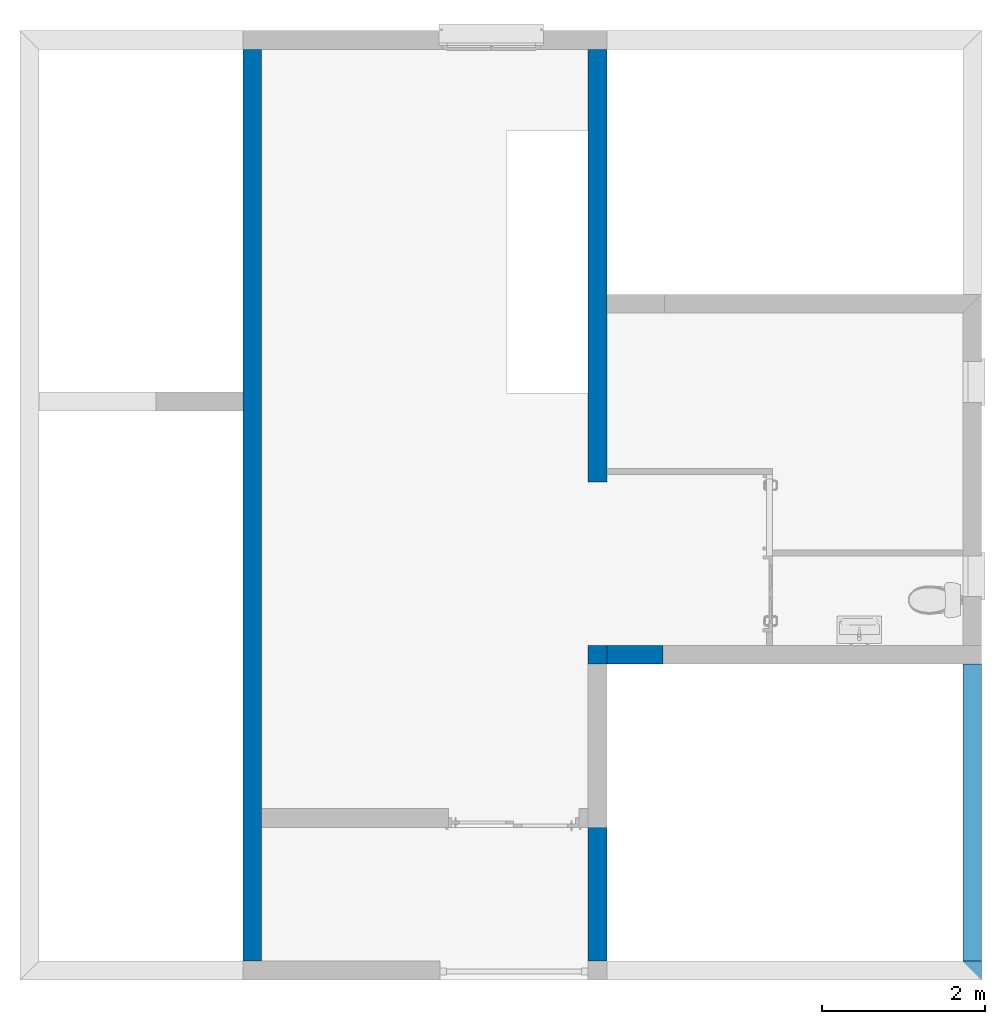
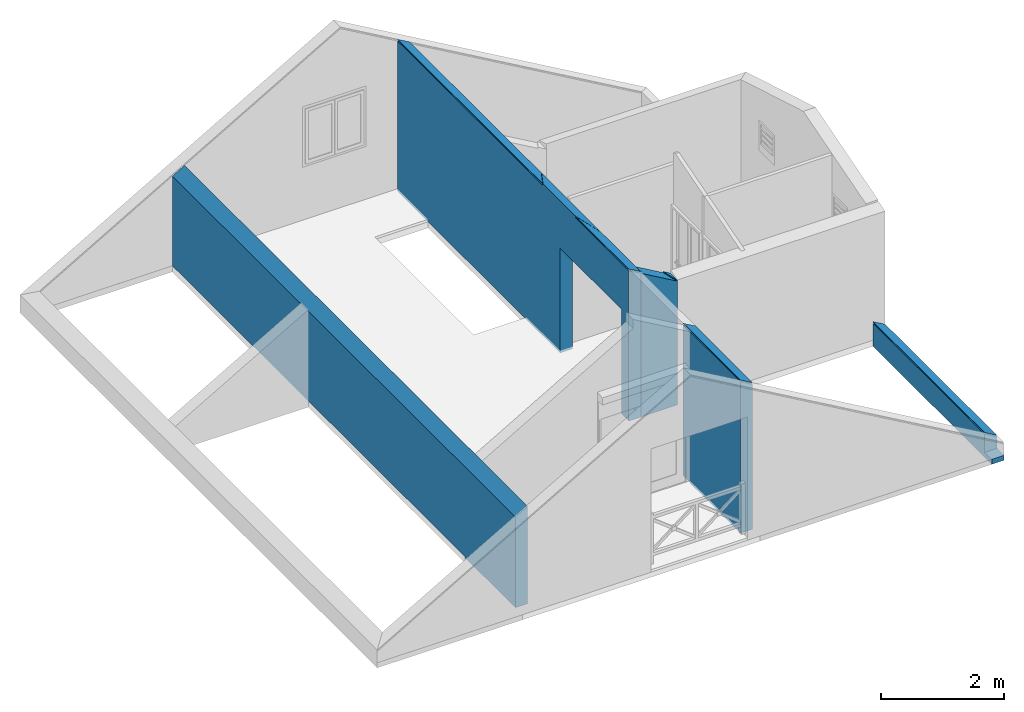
# One storey, part 5 of 8: 5 walls, 1 opening.
"""IFC2X3 building model written with IfcOpenShell, lengths in metres."""

from ifc_helpers import new_model, entity, si_unit, converted_unit, derived_unit, money_unit, direction, frame, origin_with_axes, origin_2d_with_axis, place, context, subcontext, project, spatial, polyline, rectangle, outline, extrude, boolean, clip, halfspace, bounded_halfspace, faceted_brep, material, type_object, element, save


model = new_model("IFC2X3")

# Units and contexts
model_context = context("Model", 3, precision=1e-05, world=origin_with_axes(), true_north=direction((0.0, 1.0)))
body_context = subcontext(model_context, "Body", "Model", "MODEL_VIEW")
ifc_project = project(units=[si_unit("LENGTHUNIT", "METRE"), si_unit("AREAUNIT", "SQUARE_METRE"), si_unit("VOLUMEUNIT", "CUBIC_METRE"), converted_unit("PLANEANGLEUNIT", "DEGREE", entity("IfcPlaneAngleMeasure", 0.0174532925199), si_unit("PLANEANGLEUNIT", "RADIAN"), dimensions=[0, 0, 0, 0, 0, 0, 0]), si_unit("SOLIDANGLEUNIT", "STERADIAN"), money_unit("CHF"), converted_unit("TIMEUNIT", "Year", entity("IfcTimeMeasure", 31556926.0), si_unit("TIMEUNIT", "SECOND"), dimensions=[0, 0, 1, 0, 0, 0, 0]), si_unit("MASSUNIT", "GRAM", prefix="KILO"), si_unit("THERMODYNAMICTEMPERATUREUNIT", "DEGREE_CELSIUS"), si_unit("LUMINOUSINTENSITYUNIT", "LUMEN"), si_unit("ENERGYUNIT", "JOULE", prefix="MEGA"), derived_unit("THERMALCONDUCTANCEUNIT", [(si_unit("POWERUNIT", "WATT"), 1), (si_unit("LENGTHUNIT", "METRE"), -1), (si_unit("THERMODYNAMICTEMPERATUREUNIT", "KELVIN"), -1)]), derived_unit("SPECIFICHEATCAPACITYUNIT", [(si_unit("ENERGYUNIT", "JOULE"), 1), (si_unit("MASSUNIT", "GRAM", prefix="KILO"), -1), (si_unit("THERMODYNAMICTEMPERATUREUNIT", "KELVIN"), -1)]), derived_unit("MASSDENSITYUNIT", [(si_unit("MASSUNIT", "GRAM", prefix="KILO"), 1), (si_unit("VOLUMEUNIT", "CUBIC_METRE"), -1)])], contexts=[model_context])

# Site, building, storey
site_placement = place(None, origin_with_axes())
site = spatial("IfcSite", under=ifc_project, at=site_placement, Name="Site", CompositionType="ELEMENT")
building_placement = place(site_placement, origin_with_axes())
building = spatial("IfcBuilding", under=site, at=building_placement, Name="Bâtiment", CompositionType="ELEMENT")
storey_placement = place(building_placement, frame((0.0, 0.0, 6.0), z_axis=(0.0, 0.0, 1.0), x_axis=(1.0, 0.0, 0.0)))
storey = spatial("IfcBuildingStorey", under=building, at=storey_placement, Name="COMBLES", CompositionType="ELEMENT", Elevation=6.0)

# Walls
ifc_material = material(Name="Hachure solide 2628782308")
wall_type = type_object("IfcWallType", Name="Hachure solide 2628782308 230", PredefinedType="NOTDEFINED")
wall_1_placement = place(storey_placement, frame((92.659162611, 11.2803410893, -3.37), z_axis=(0.0, 0.0, 1.0), x_axis=(-1.0, 0.0, 0.0)))
element("IfcWall", 1, at=wall_1_placement, inside=storey, type_object=wall_type, material=ifc_material, Name="MurExt-017", context=body_context, shape_type="CSG", body=[
    boolean("DIFFERENCE", clip(clip(clip(clip(clip(extrude(outline(polyline([(0.0, 0.0), (0.915643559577, 0.0), (0.915643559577, 0.23), (0.0, 0.23), (0.0, 0.0)])), origin_with_axes(), (0.0, 0.0, 1.0), 3.0), bounded_halfspace(frame((0.0, 0.7006026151, 2.3651947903), z_axis=(0.0, -0.284015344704, -0.958819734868), x_axis=(0.0, 0.958819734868, -0.284015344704)), True, origin_with_axes(), polyline([(-4.30426656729, 0.23), (-4.1792090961, -0.01), (0.140471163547, -0.01), (0.0102029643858, 0.24), (-4.30426656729, 0.24), (-4.30426656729, 0.23)]))), bounded_halfspace(frame((0.0, 0.7006026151, 2.3651947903), z_axis=(0.0, -0.284015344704, -0.958819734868), x_axis=(0.0, 0.958819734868, -0.284015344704)), True, origin_with_axes(), polyline([(-4.30426656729, 0.23), (-4.1792090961, -0.01), (0.140471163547, -0.01), (0.0102029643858, 0.24), (-4.30426656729, 0.24), (-4.30426656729, 0.23)]))), bounded_halfspace(frame((0.0, 0.7006026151, 2.3651947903), z_axis=(0.0, -0.284015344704, -0.958819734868), x_axis=(0.0, 0.958819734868, -0.284015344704)), True, origin_with_axes(), polyline([(-4.30426656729, 0.23), (-4.1792090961, -0.01), (0.140471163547, -0.01), (0.0102029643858, 0.24), (-4.30426656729, 0.24), (-4.30426656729, 0.23)]))), bounded_halfspace(frame((-1.07516058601, 0.0, 1.86223276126), z_axis=(0.5, 0.0, -0.866025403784), x_axis=(0.0, 1.0, 0.0)), True, origin_with_axes(), polyline([(-4.18431570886, 0.23), (-4.05925824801, -0.01), (2.10555367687, -0.01), (2.10555367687, 0.0), (1.98049621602, 0.24), (-4.18431570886, 0.24), (-4.18431570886, 0.23)]))), bounded_halfspace(frame((-1.07949071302, 0.0, 1.86973276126), z_axis=(0.5, 0.0, -0.866025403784), x_axis=(0.0, 1.0, 0.0)), True, origin_with_axes(), polyline([(-4.18431570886, 0.23), (-4.05925823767, -0.01), (2.10555368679, -0.01), (2.10555368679, 0.0), (1.9804962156, 0.24), (-4.18431570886, 0.24), (-4.18431570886, 0.23)]))), faceted_brep([(0.135260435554, 0.0, 2.58261666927), (0.135260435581, 0.0, 2.59358171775), (0.0, 0.0, 2.59358171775), (0.0, 0.0, 2.57272273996), (0.13526043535, 0.0, 2.57272273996), (0.135260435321, 0.0, 2.57106966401), (0.685643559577, 0.0, 2.88883350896), (0.685643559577, 0.0, 2.87944464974), (0.135260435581, 0.0, 2.56168080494), (0.135260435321, 0.0, 2.53858679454), (0.685643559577, 0.0, 2.85635063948), (0.685643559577, 0.0, 0.0), (0.915643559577, 0.0, 0.0), (0.915643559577, 0.0, 3.0), (0.685643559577, 0.0, 3.0), (0.685643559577, 0.0, 2.90038051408), (0.0154136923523, 0.23, 2.51342311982), (0.0154136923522, 0.23, 2.52545261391), (0.0, 0.23, 2.52545261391), (0.0, 0.23, 2.50459363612), (0.0154136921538, 0.230000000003, 2.50459363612), (0.0154136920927, 0.230000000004, 2.50187611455), (0.685643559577, 0.23, 2.88883350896), (0.685643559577, 0.23, 2.87944464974), (0.0154136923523, 0.23, 2.49248725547), (0.0154136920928, 0.230000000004, 2.46939324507), (0.685643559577, 0.23, 2.85635063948), (0.685643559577, 0.23, 0.0), (0.915643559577, 0.23, 0.0), (0.915643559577, 0.23, 3.0), (0.685643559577, 0.23, 3.0), (0.685643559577, 0.23, 2.90038051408)], [[[0, 1, 2, 3, 4, 5, 6, 7, 8, 9, 10, 11, 12, 13, 14, 15]], [[16, 17, 1, 0]], [[18, 2, 1, 17]], [[2, 18, 19, 3]], [[4, 3, 19, 20]], [[20, 21, 5, 4]], [[21, 22, 6, 5]], [[7, 6, 22, 23]], [[23, 24, 8, 7]], [[24, 25, 9, 8]], [[25, 26, 10, 9]], [[11, 10, 26, 27]], [[11, 27, 28, 12]], [[13, 12, 28, 29]], [[30, 14, 13, 29]], [[15, 14, 30, 31]], [[31, 16, 0, 15]], [[31, 30, 29, 28, 27, 26, 25, 24, 23, 22, 21, 20, 19, 18, 17, 16]]])),
])
wall_2_placement = place(storey_placement, frame((87.5135190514, 18.8103410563, -3.39), z_axis=(0.0, 0.0, 1.0), x_axis=(0.0, -1.0, 0.0)))
element("IfcWall", 2, at=wall_2_placement, inside=storey, type_object=wall_type, material=ifc_material, Name="MurExt-014", context=body_context, shape_type="CSG", body=[
    boolean("DIFFERENCE", clip(extrude(outline(polyline([(0.0, 0.0), (11.63, 0.0), (11.63, 0.23), (0.0, 0.23), (0.0, 0.0)])), origin_with_axes(), (0.0, 0.0, 1.0), 2.56), halfspace(frame((0.0, -0.781571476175, 1.35372150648), z_axis=(0.0, 0.5, -0.866025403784), x_axis=(0.0, 0.866025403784, 0.5)), True)), faceted_brep([(0.23, 0.0, 2.56), (0.23, 0.23, 2.56), (0.0, 0.23, 2.56), (0.0, 0.0, 2.56), (0.23, 0.23, 1.97929957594), (0.23, 2.00289491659e-08, 1.84650902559), (11.4, 0.23, 1.97929957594), (11.4, 0.23, 2.56), (11.63, 0.23, 2.56), (11.63, 0.23, 0.0), (11.4, 0.23, 0.0), (11.4, 0.23, 1.93526970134), (0.23, 0.23, 1.93526970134), (0.23, 0.23, 0.02), (9.76107445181, 0.23, 0.02), (9.76107445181, 0.23, 0.0), (0.0, 0.23, 0.0), (11.4, 0.23, 1.95836371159), (11.4, 0.23, 1.96775257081), (0.23, 0.23, 1.96775257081), (0.23, 0.23, 1.95836371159), (0.0, 0.0, 0.0), (9.76107445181, 7.13022956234e-08, 0.0), (9.76107445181, 7.13022956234e-08, 0.02), (0.23, 7.13022956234e-08, 0.02), (0.23, 2.12649524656e-08, 1.8024791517), (11.4, 0.0, 1.80247913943), (11.4, 0.0, 0.0), (11.63, 0.0, 0.0), (11.63, 0.0, 2.56), (11.4, 0.0, 2.56), (11.4, 0.0, 1.84650901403), (11.4, 0.0, 1.82557314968), (0.23, 2.06166674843e-08, 1.82557316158), (0.23, 2.03530987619e-08, 1.83496202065), (11.4, 0.0, 1.8349620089)], [[[0, 1, 2, 3]], [[4, 1, 0, 5]], [[6, 7, 8, 9, 10, 11, 12, 13, 14, 15, 16, 2, 1, 4], [17, 18, 19, 20]], [[2, 16, 21, 3]], [[5, 0, 3, 21, 22, 23, 24, 25, 26, 27, 28, 29, 30, 31], [32, 33, 34, 35]], [[6, 4, 5, 31]], [[30, 7, 6, 31]], [[7, 30, 29, 8]], [[29, 28, 9, 8]], [[27, 10, 9, 28]], [[11, 10, 27, 26]], [[12, 11, 26, 25]], [[13, 12, 25, 24]], [[14, 13, 24, 23]], [[15, 14, 23, 22]], [[15, 22, 21, 16]], [[18, 17, 32, 35]], [[19, 18, 35, 34]], [[20, 19, 34, 33]], [[17, 20, 33, 32]]])),
])
wall_3_placement = place(storey_placement, frame((96.5635190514, 7.41034105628, -3.49), z_axis=(0.0, 0.0, 1.0), x_axis=(0.0, 1.0, 0.0)))
element("IfcWall", 3, at=wall_3_placement, inside=storey, type_object=wall_type, material=ifc_material, Name="MurExt-018", context=body_context, shape_type="CSG", body=[
    boolean("DIFFERENCE", boolean("DIFFERENCE", clip(extrude(outline(polyline([(-0.23, 0.0), (3.87000000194, 0.0), (3.87000000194, 0.23), (-0.23, 0.23), (-0.23, 0.0)])), origin_with_axes(), (0.0, 0.0, 1.0), 2.56), bounded_halfspace(frame((0.0, -0.155363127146, 0.269096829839), z_axis=(0.0, 0.5, -0.866025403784), x_axis=(0.0, 0.866025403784, 0.5)), True, origin_with_axes(), polyline([(-0.51001000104, -0.01), (11.6800100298, -0.01), (11.6800100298, 0.24), (-0.51001000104, 0.24), (-0.51001000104, -0.01)]))), faceted_brep([(3.29500000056, 0.0, 2.54325894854), (3.29500000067, 0.0, 2.52239997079), (3.42193557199, 0.0, 2.56), (3.35151684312, 0.0, 2.56), (3.29500000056, 0.23, 2.54325894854), (3.29500000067, 0.23, 2.52239997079), (3.42193557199, 0.23, 2.56), (3.35151684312, 0.23, 2.56)], [[[0, 1, 2, 3]], [[1, 0, 4, 5]], [[6, 2, 1, 5]], [[7, 3, 2, 6]], [[0, 3, 7, 4]], [[4, 7, 6, 5]]])), faceted_brep([(3.64000003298, 0.23, 2.56), (3.64000003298, 0.0, 2.56), (3.87000000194, 0.0, 2.56), (3.87000000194, 0.23, 2.56), (3.64000003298, 0.0, 0.370342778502), (3.64000003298, 0.23, 0.503133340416), (0.0, 0.0, 0.370342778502), (0.0, 0.0, 2.56), (-0.23, 0.0, 2.56), (-0.23, 0.0, 0.1), (0.0, 0.0, 0.1), (0.0, 0.0, 0.326312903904), (3.64000003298, 0.0, 0.326312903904), (3.64000003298, 0.0, 0.1), (3.64, 0.0, 0.0), (3.87000000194, 0.0, 0.0), (0.0, 0.0, 0.349406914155), (0.0, 0.0, 0.358795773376), (3.64000003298, 0.0, 0.358795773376), (3.64000003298, 0.0, 0.349406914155), (3.87000000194, 0.23, 0.0), (3.64, 0.23, 0.0), (3.64000003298, 0.23, 0.1), (3.64000003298, 0.23, 0.459103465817), (0.0, 0.23, 0.459103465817), (0.0, 0.23, 0.1), (-0.23, 0.23, 0.1), (-0.23, 0.23, 2.56), (0.0, 0.23, 2.56), (0.0, 0.23, 0.503133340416), (0.0, 0.23, 0.482197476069), (3.64000003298, 0.23, 0.482197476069), (3.64000003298, 0.23, 0.49158633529), (0.0, 0.23, 0.49158633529)], [[[0, 1, 2, 3]], [[4, 1, 0, 5]], [[6, 7, 8, 9, 10, 11, 12, 13, 14, 15, 2, 1, 4], [16, 17, 18, 19]], [[2, 15, 20, 3]], [[5, 0, 3, 20, 21, 22, 23, 24, 25, 26, 27, 28, 29], [30, 31, 32, 33]], [[6, 4, 5, 29]], [[28, 7, 6, 29]], [[7, 28, 27, 8]], [[26, 9, 8, 27]], [[10, 9, 26, 25]], [[11, 10, 25, 24]], [[12, 11, 24, 23]], [[13, 12, 23, 22, 21, 14]], [[14, 21, 20, 15]], [[17, 16, 30, 33]], [[18, 17, 33, 32]], [[19, 18, 32, 31]], [[16, 19, 31, 30]]])),
])

# Wall, opening
wall_4_placement = place(storey_placement, frame((91.9735190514, 11.0503410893, -3.39), z_axis=(0.0, 0.0, 1.0), x_axis=(0.0, 1.0, 0.0)))
wall_4 = element("IfcWall", 4, at=wall_4_placement, inside=storey, type_object=wall_type, material=ifc_material, Name="MurExt-012", context=body_context, shape_type="CSG", body=[
    boolean("DIFFERENCE", boolean("DIFFERENCE", clip(extrude(outline(polyline([(0.0, 0.0), (7.75999996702, 0.0), (7.75999996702, 0.23), (0.0, 0.23), (0.0, 0.0)])), origin_with_axes(), (0.0, 0.0, 1.0), 3.2), bounded_halfspace(frame((0.0, -1.25956185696, 2.18162513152), z_axis=(0.0, 0.5, -0.866025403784), x_axis=(0.0, 0.866025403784, 0.5)), True, origin_with_axes(), polyline([(-4.59161064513, -0.01), (8.0210223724, -0.01), (8.48161060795, 0.23), (8.48161060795, 0.24), (-4.13102240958, 0.24), (-4.59161064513, 0.0), (-4.59161064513, -0.01)]))), faceted_brep([(-5.8789311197e-09, -1.30003598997e-08, 2.87635063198), (1.28624972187, -1.27734296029e-07, 2.87635056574), (1.28624972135, -1.27734296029e-07, 2.89944457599), (-5.459439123e-09, -1.20727179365e-08, 2.89944464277), (0.0, 0.23, 3.0091412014), (1.72764702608, 0.23, 3.0091412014), (1.72764702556, 0.23, 3.03223521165), (0.0, 0.23, 3.03223521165)], [[[0, 1, 2, 3]], [[1, 0, 4, 5]], [[2, 1, 5, 6]], [[3, 2, 6, 7]], [[4, 0, 3, 7]], [[5, 4, 7, 6]]])), faceted_brep([(7.52999996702, 0.23, 3.2), (7.52999996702, 0.0, 3.2), (7.75999996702, 0.0, 3.2), (7.75999996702, 0.23, 3.2), (7.52999996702, -1.1231762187e-08, 2.9203805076), (7.52999996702, 0.23, 3.053171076), (3.24375021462, -1.27734296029e-07, 2.92645713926), (2.32028499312, 0.0, 3.2), (2.20971494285, 0.0, 3.2), (1.28624972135, -1.27734296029e-07, 2.92645713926), (1.28624972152, -1.27645179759e-07, 2.92038044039), (-5.0791495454e-09, -1.1231762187e-08, 2.9203805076), (-5.28889465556e-09, -1.16955760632e-08, 2.9088335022), (1.28624972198, -1.27672379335e-07, 2.90883343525), (1.28624972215, -1.27734296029e-07, 2.90559816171), (2.26499996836, -1.27734296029e-07, 3.19551719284), (3.2437502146, -1.27734296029e-07, 2.90559816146), (3.24375021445, -1.27955630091e-07, 2.90883343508), (7.52999996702, -1.16955760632e-08, 2.9088335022), (7.52999996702, -1.20727179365e-08, 2.89944464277), (3.24375021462, -1.27734296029e-07, 2.89944457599), (3.24375021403, -1.27734296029e-07, 2.87635056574), (7.52999996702, -1.30003598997e-08, 2.87635063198), (7.52999996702, -1.27734296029e-07, 0.02), (4.52999991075, -1.27734296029e-07, 0.02), (2.22999996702, 0.0, 0.02), (2.22999996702, 0.0, 0.07), (0.229999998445, 0.0, 0.07), (0.229999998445, -1.27734296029e-07, 0.02), (-5.77631258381e-08, -1.27734296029e-07, 0.02), (0.0, 0.0, 0.0), (7.75999996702, 0.0, 0.0), (3.24375021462, -1.27731993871e-07, 2.92038044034), (7.75999996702, 0.23, 0.0), (0.0, 0.23, 0.0), (0.0, 0.23, 0.02), (0.23, 0.23, 0.02), (0.23, 0.23, 0.07), (2.22999996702, 0.23, 0.07), (2.22999996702, 0.23, 0.02), (7.52999996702, 0.23, 0.02), (7.52999996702, 0.23, 3.0091412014), (2.80235290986, 0.23, 3.0091412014), (2.80235291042, 0.23, 3.03223521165), (7.52999996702, 0.23, 3.03223521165), (7.52999996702, 0.23, 3.04162407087), (2.80235291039, 0.229999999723, 3.04162407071), (2.80235291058, 0.23, 3.03634599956), (2.26499996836, 0.23, 3.19551719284), (1.7276470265, 0.23, 3.0363459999), (1.72764702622, 0.230000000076, 3.04162407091), (0.0, 0.23, 3.04162407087), (0.0, 0.23, 3.053171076), (1.7276470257, 0.230000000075, 3.05317107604), (1.72764702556, 0.23, 3.05720497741), (2.20971494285, 0.23, 3.2), (2.32028499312, 0.23, 3.2), (2.80235291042, 0.23, 3.05720497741), (2.80235291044, 0.229999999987, 3.05317107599)], [[[0, 1, 2, 3]], [[4, 1, 0, 5]], [[6, 7, 8, 9, 10, 11, 12, 13, 14, 15, 16, 17, 18, 19, 20, 21, 22, 23, 24, 25, 26, 27, 28, 29, 30, 31, 2, 1, 4, 32]], [[2, 31, 33, 3]], [[5, 0, 3, 33, 34, 35, 36, 37, 38, 39, 40, 41, 42, 43, 44, 45, 46, 47, 48, 49, 50, 51, 52, 53, 54, 55, 56, 57, 58]], [[32, 4, 5, 58]], [[7, 6, 57, 56]], [[7, 56, 55, 8]], [[9, 8, 55, 54]], [[10, 9, 54, 53]], [[11, 10, 53, 52]], [[11, 52, 51, 12]], [[13, 12, 51, 50]], [[14, 13, 50, 49]], [[15, 14, 49, 48]], [[16, 15, 48, 47]], [[17, 16, 47, 46]], [[18, 17, 46, 45]], [[19, 18, 45, 44]], [[20, 19, 44, 43]], [[21, 20, 43, 42]], [[22, 21, 42, 41]], [[23, 22, 41, 40]], [[24, 23, 40, 39, 25]], [[26, 25, 39, 38]], [[27, 26, 38, 37]], [[28, 27, 37, 36]], [[29, 28, 36, 35]], [[29, 35, 34, 30]], [[31, 30, 34, 33]], [[6, 32, 58, 57]]])),
])
opening_placement = place(wall_4_placement, frame((1.22999998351, 0.0, 0.0), z_axis=(0.0, 0.0, 1.0), x_axis=(1.0, 0.0, 0.0)))
element("IfcOpeningElement", 5, at=opening_placement, cuts=wall_4, Name="Por-024", context=body_context, shape_type="SweptSolid", body=[
    extrude(rectangle(XDim=1.99999996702, YDim=2.1, at=origin_2d_with_axis()), frame((0.0, 0.23, 1.05), z_axis=(0.0, -1.0, 0.0), x_axis=(1.0, 0.0, 0.0)), (0.0, 0.0, 1.0), 0.69),
])

# Wall
wall_5_placement = place(storey_placement, frame((91.9735190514, 7.41034105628, -3.39), z_axis=(0.0, 0.0, 1.0), x_axis=(0.0, 1.0, 0.0)))
element("IfcWall", 6, at=wall_5_placement, inside=storey, type_object=wall_type, material=ifc_material, Name="MurExt-016", context=body_context, shape_type="CSG", body=[
    boolean("DIFFERENCE", boolean("DIFFERENCE", boolean("DIFFERENCE", clip(extrude(outline(polyline([(0.0, 0.0), (1.86892554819, 0.0), (1.86892554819, 0.23), (0.0, 0.23), (0.0, 0.0)])), origin_with_axes(), (0.0, 0.0, 1.0), 3.2), halfspace(frame((0.0, -1.25956185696, 2.18162513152), z_axis=(0.0, 0.5, -0.866025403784), x_axis=(0.0, 0.866025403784, 0.5)), True)), faceted_brep([(1.86892554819, 0.23, 0.02), (1.86892554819, -7.77884849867e-08, 0.02), (1.86892554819, 0.0, 0.0), (1.86892554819, 0.23, 0.0), (1.63892554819, -7.13022956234e-08, 0.02), (1.63892554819, 0.23, 0.02), (1.63892554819, -7.13022956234e-08, 0.0), (1.63892554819, 0.23, 0.0)], [[[0, 1, 2, 3]], [[4, 1, 0, 5]], [[4, 6, 2, 1]], [[6, 7, 3, 2]], [[5, 0, 3, 7]], [[6, 4, 5, 7]]])), faceted_brep([(1.86892554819, 0.23, 3.03223521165), (1.86892554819, -7.35212779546e-09, 2.89944464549), (1.86892554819, -7.9170376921e-09, 2.87635063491), (1.86892554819, 0.23, 3.0091412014), (0.0, 0.0, 2.89944464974), (0.0, 0.23, 3.03223521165), (0.0, 0.0, 2.87635063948), (0.0, 0.23, 3.0091412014)], [[[0, 1, 2, 3]], [[4, 1, 0, 5]], [[1, 4, 6, 2]], [[3, 2, 6, 7]], [[5, 0, 3, 7]], [[4, 5, 7, 6]]])), faceted_brep([(1.86892554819, 0.23, 3.053171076), (1.86892554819, -6.83999701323e-09, 2.92038051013), (1.86892554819, -7.12245196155e-09, 2.90883350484), (1.86892554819, 0.23, 3.04162407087), (0.0, 0.0, 2.92038051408), (0.0, 0.23, 3.053171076), (0.0, 0.0, 2.90883350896), (0.0, 0.23, 3.04162407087)], [[[0, 1, 2, 3]], [[4, 1, 0, 5]], [[1, 4, 6, 2]], [[3, 2, 6, 7]], [[5, 0, 3, 7]], [[4, 5, 7, 6]]])),
])

save(model, "model.ifc")
